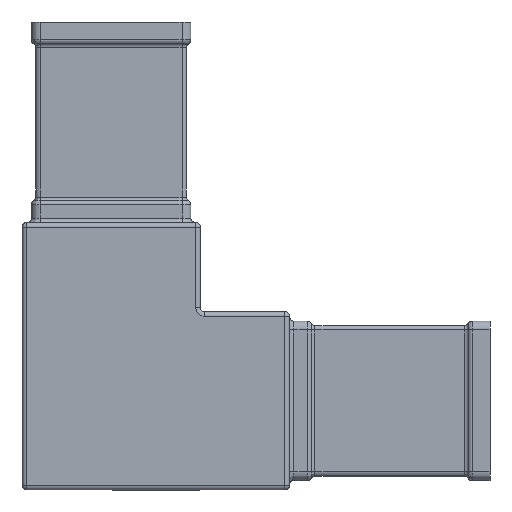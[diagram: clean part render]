
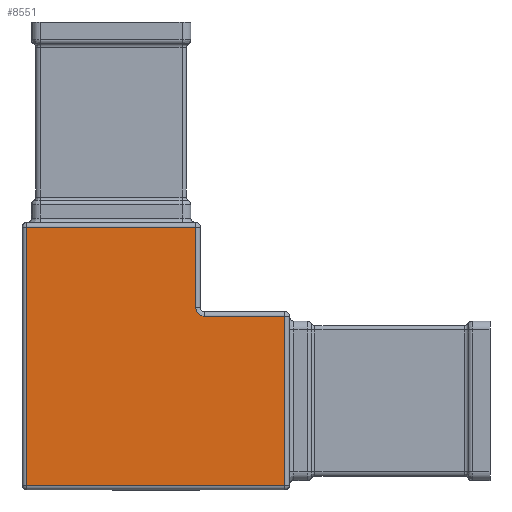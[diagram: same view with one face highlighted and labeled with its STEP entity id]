
A CAD part, front view. The second image highlights one B-rep face of the part: STEP entity #8551.
In plain terms, the highlighted planar face has unit normal (0, -1, 0).
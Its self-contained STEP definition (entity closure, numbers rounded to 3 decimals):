
#1 = CARTESIAN_POINT ( 'NONE',  ( 9.153, 0., 20.232 ) ) ;
#37 = ORIENTED_EDGE ( 'NONE', *, *, #3705, .T. ) ;
#109 = DIRECTION ( 'NONE',  ( 0., 0., 1. ) ) ;
#146 = EDGE_CURVE ( 'NONE', #9235, #1609, #4578, .T. ) ;
#444 = EDGE_CURVE ( 'NONE', #894, #5970, #4430, .T. ) ;
#805 = CARTESIAN_POINT ( 'NONE',  ( 29., 0., 0. ) ) ;
#894 = VERTEX_POINT ( 'NONE', #9342 ) ;
#996 = CARTESIAN_POINT ( 'NONE',  ( 0., 0., 39. ) ) ;
#1015 = DIRECTION ( 'NONE',  ( 0., 0., 1. ) ) ;
#1103 = LINE ( 'NONE', #6934, #2756 ) ;
#1298 = LINE ( 'NONE', #9341, #7771 ) ;
#1487 = DIRECTION ( 'NONE',  ( -1., 0., 0. ) ) ;
#1509 = CARTESIAN_POINT ( 'NONE',  ( 10.28, 0., 19.134 ) ) ;
#1604 = ORIENTED_EDGE ( 'NONE', *, *, #1645, .T. ) ;
#1609 = VERTEX_POINT ( 'NONE', #7053 ) ;
#1645 = EDGE_CURVE ( 'NONE', #2634, #1716, #5218, .T. ) ;
#1716 = VERTEX_POINT ( 'NONE', #8137 ) ;
#1876 = AXIS2_PLACEMENT_3D ( 'NONE', #8942, #2460, #6625 ) ;
#2163 = CARTESIAN_POINT ( 'NONE',  ( 9.167, 0., 20.2 ) ) ;
#2370 = FACE_OUTER_BOUND ( 'NONE', #3050, .T. ) ;
#2460 = DIRECTION ( 'NONE',  ( 0., -1., 0. ) ) ;
#2528 = EDGE_CURVE ( 'NONE', #894, #5756, #7297, .T. ) ;
#2634 = VERTEX_POINT ( 'NONE', #9002 ) ;
#2756 = VECTOR ( 'NONE', #3977, 1000. ) ;
#2913 = CARTESIAN_POINT ( 'NONE',  ( 9.146, 0., 20.249 ) ) ;
#3050 = EDGE_LOOP ( 'NONE', ( #6081, #5186, #4176, #9357, #1604, #37, #6558 ) ) ;
#3327 = VECTOR ( 'NONE', #109, 1000. ) ;
#3618 = CARTESIAN_POINT ( 'NONE',  ( -30., 0., -19. ) ) ;
#3705 = EDGE_CURVE ( 'NONE', #1716, #9235, #3785, .T. ) ;
#3760 = DIRECTION ( 'NONE',  ( -1., 0., 0. ) ) ;
#3785 = LINE ( 'NONE', #7459, #4011 ) ;
#3862 = PLANE ( 'NONE',  #1876 ) ;
#3866 = DIRECTION ( 'NONE',  ( -1., 0., 0. ) ) ;
#3943 = VECTOR ( 'NONE', #3866, 1000. ) ;
#3977 = DIRECTION ( 'NONE',  ( 0., 0., -1. ) ) ;
#4011 = VECTOR ( 'NONE', #1015, 1000. ) ;
#4176 = ORIENTED_EDGE ( 'NONE', *, *, #2528, .T. ) ;
#4280 = CARTESIAN_POINT ( 'NONE',  ( 10.007, 0., 19.242 ) ) ;
#4327 = CARTESIAN_POINT ( 'NONE',  ( 9.359, 0., 19.841 ) ) ;
#4370 = CARTESIAN_POINT ( 'NONE',  ( 9., 0., 20.745 ) ) ;
#4430 = LINE ( 'NONE', #3618, #6077 ) ;
#4578 = LINE ( 'NONE', #996, #3943 ) ;
#4636 = CARTESIAN_POINT ( 'NONE',  ( -29., 0., -19. ) ) ;
#5132 = CARTESIAN_POINT ( 'NONE',  ( 10.323, 0., 19.118 ) ) ;
#5185 = CARTESIAN_POINT ( 'NONE',  ( 10.473, 0., 19.069 ) ) ;
#5186 = ORIENTED_EDGE ( 'NONE', *, *, #444, .F. ) ;
#5218 = B_SPLINE_CURVE_WITH_KNOTS ( 'NONE', 3,
 ( #7333, #8793, #5851, #5185, #7195, #5132, #6475, #1509, #4280, #8038, #5755, #4327, #5714, #7238, #2163, #1, #2913, #7901, #4370, #7281 ),
 .UNSPECIFIED., .F., .F.,
 ( 4, 1, 1, 1, 2, 2, 2, 1, 1, 1, 2, 2, 4 ),
 ( 0., 0.125, 0.187, 0.219, 0.234, 0.25, 0.5, 0.625, 0.688, 0.719, 0.734, 0.75, 1. ),
 .UNSPECIFIED. ) ;
#5404 = CARTESIAN_POINT ( 'NONE',  ( 9., 0., 39. ) ) ;
#5714 = CARTESIAN_POINT ( 'NONE',  ( 9.24, 0., 20.046 ) ) ;
#5755 = CARTESIAN_POINT ( 'NONE',  ( 9.488, 0., 19.683 ) ) ;
#5756 = VERTEX_POINT ( 'NONE', #6401 ) ;
#5851 = CARTESIAN_POINT ( 'NONE',  ( 10.686, 0., 19.018 ) ) ;
#5970 = VERTEX_POINT ( 'NONE', #4636 ) ;
#6077 = VECTOR ( 'NONE', #3760, 1000. ) ;
#6081 = ORIENTED_EDGE ( 'NONE', *, *, #7003, .T. ) ;
#6401 = CARTESIAN_POINT ( 'NONE',  ( 29., 0., 19. ) ) ;
#6475 = CARTESIAN_POINT ( 'NONE',  ( 10.293, 0., 19.129 ) ) ;
#6558 = ORIENTED_EDGE ( 'NONE', *, *, #146, .T. ) ;
#6625 = DIRECTION ( 'NONE',  ( 0., 0., -1. ) ) ;
#6776 = EDGE_CURVE ( 'NONE', #5756, #2634, #1298, .T. ) ;
#6934 = CARTESIAN_POINT ( 'NONE',  ( -29., 0., 0. ) ) ;
#7003 = EDGE_CURVE ( 'NONE', #1609, #5970, #1103, .T. ) ;
#7053 = CARTESIAN_POINT ( 'NONE',  ( -29., 0., 39. ) ) ;
#7195 = CARTESIAN_POINT ( 'NONE',  ( 10.368, 0., 19.102 ) ) ;
#7238 = CARTESIAN_POINT ( 'NONE',  ( 9.188, 0., 20.153 ) ) ;
#7281 = CARTESIAN_POINT ( 'NONE',  ( 9., 0., 21. ) ) ;
#7297 = LINE ( 'NONE', #805, #3327 ) ;
#7333 = CARTESIAN_POINT ( 'NONE',  ( 11., 0., 19. ) ) ;
#7459 = CARTESIAN_POINT ( 'NONE',  ( 9., 0., 0. ) ) ;
#7771 = VECTOR ( 'NONE', #1487, 1000. ) ;
#7901 = CARTESIAN_POINT ( 'NONE',  ( 9.047, 0., 20.5 ) ) ;
#8038 = CARTESIAN_POINT ( 'NONE',  ( 9.781, 0., 19.391 ) ) ;
#8137 = CARTESIAN_POINT ( 'NONE',  ( 9., 0., 21. ) ) ;
#8551 = ADVANCED_FACE ( 'NONE', ( #2370 ), #3862, .T. ) ;
#8793 = CARTESIAN_POINT ( 'NONE',  ( 10.873, 0., 19. ) ) ;
#8942 = CARTESIAN_POINT ( 'NONE',  ( 0., 0., 0. ) ) ;
#9002 = CARTESIAN_POINT ( 'NONE',  ( 11., 0., 19. ) ) ;
#9235 = VERTEX_POINT ( 'NONE', #5404 ) ;
#9341 = CARTESIAN_POINT ( 'NONE',  ( 0., 0., 19. ) ) ;
#9342 = CARTESIAN_POINT ( 'NONE',  ( 29., 0., -19. ) ) ;
#9357 = ORIENTED_EDGE ( 'NONE', *, *, #6776, .T. ) ;
